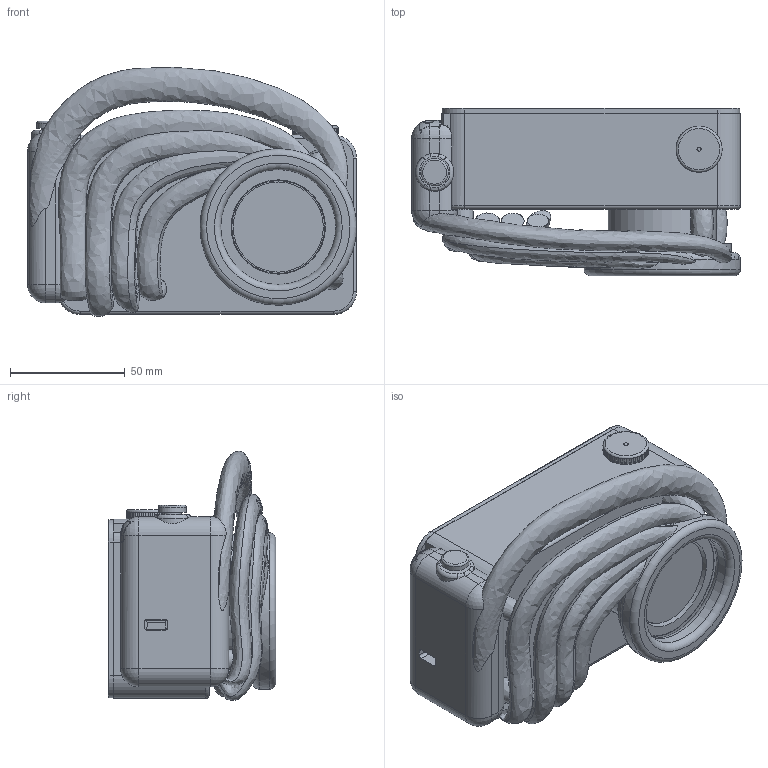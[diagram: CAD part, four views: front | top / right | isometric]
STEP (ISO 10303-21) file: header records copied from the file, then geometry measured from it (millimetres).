
FILE_DESCRIPTION(('Open CASCADE Model'),'2;1');
FILE_NAME('Open CASCADE Shape Model','2026-10-20T15:49:49',('Author'),( 'Open CASCADE'),'Open CASCADE STEP processor 7.8','Open CASCADE 7.8' ,'Unknown');
FILE_SCHEMA(('AUTOMOTIVE_DESIGN { 1 0 10303 214 1 1 1 1 }'));
Length unit declared in the file: millimetre
Products named in the file (19): Entropi_CAD_v04; 01_rib_cage; 02_chassis; 03_rear_cover; 04_esp32_carrier; 05_board_clamp; 06_optical_baffle; 07_shutter; 08_shutter_pin; 09_rear_dial; 10_io_plate; 12_lens_blank; 13_lens_blank_retainer; 14_dial_retainer; 15_shutter_return_flexure; 17_camera_saddle; 18_camera_clamp; 19_usb_retainer; 20_shutter_service_cover
Assembly tree (18 placements, depth 2):
  Entropi_CAD_v04
    01_rib_cage
    02_chassis
    03_rear_cover
    04_esp32_carrier
    05_board_clamp
    06_optical_baffle
    07_shutter
    08_shutter_pin
    09_rear_dial
    10_io_plate
    12_lens_blank
    13_lens_blank_retainer
    14_dial_retainer
    15_shutter_return_flexure
    17_camera_saddle
    18_camera_clamp
    19_usb_retainer
    20_shutter_service_cover
Bounding box: 143 x 72.9 x 108.42 mm (x, y, z)
Volume: 234389.8 mm3; surface area: 142215.8 mm2
Topology: 18 solids, 18 shells, 764 faces, 1923 edges, 1210 vertices
Faces by surface type: plane 425, cylinder 261, sphere 32, bspline 24, torus 20, extrusion 2
Full cylindrical faces by diameter (mm): 1.8 x28, 2.1 x1, 2.4 x25, 4.2 x1, 4.4 x2, 4.6 x2, 5 x4, 6 x1, 6.6 x1, 7.2 x2, 7.8 x1, 8.4 x1, 9 x7, 12 x1, 14.6 x1, 15 x1, 17 x1, 20 x1, 39.2 x1, 40.4 x1, 41 x1, 47 x1, 47.6 x1, 50 x2, 68 x1
Entity records: 66185 total; most frequent: CARTESIAN_POINT 28124, DIRECTION 6913, ORIENTED_EDGE 3792, PCURVE 3792, DEFINITIONAL_REPRESENTATION 3792, VECTOR 3547, LINE 3545, EDGE_CURVE 1896
